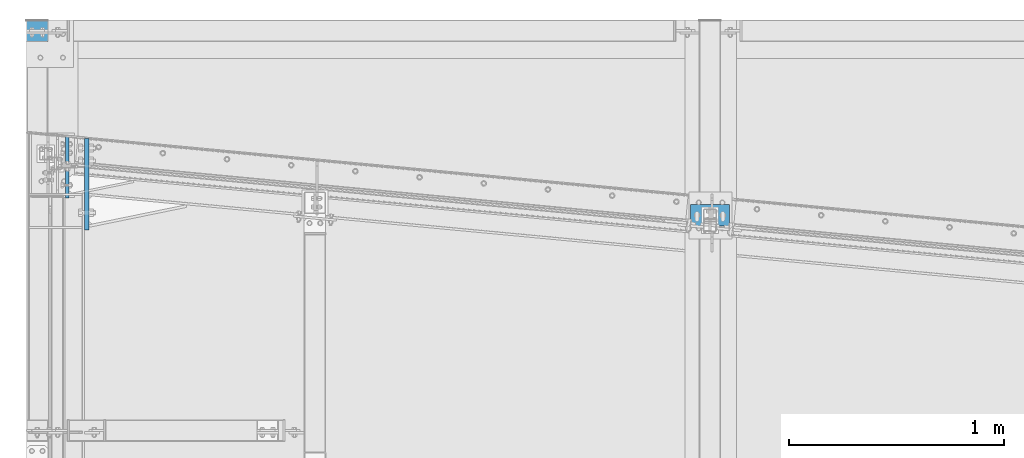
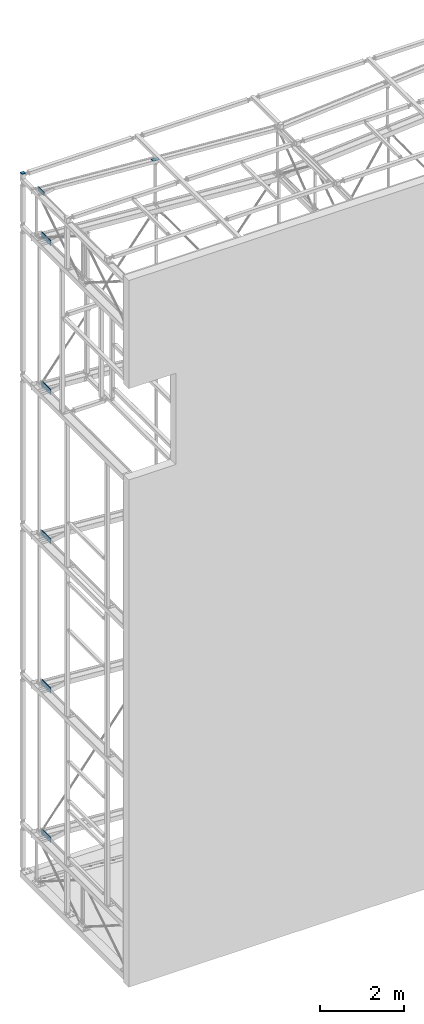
# One storey, part 4 of 271: 8 columns, 8 elements without a shape of their own.
"""IFC2X3 building model written with IfcOpenShell, lengths in millimetres."""

from ifc_helpers import new_model, si_unit, frame, origin_with_axes, origin_2d_with_axis, place, context, subcontext, project, spatial, rectangle, extrude, material, type_object, element, aggregate, save


model = new_model("IFC2X3")

# Units and contexts
model_context = context("Model", 3, precision=1e-05, world=origin_with_axes())
body_context = subcontext(model_context, "Body", "Model", "MODEL_VIEW")
ifc_project = project(units=[si_unit("LENGTHUNIT", "METRE", prefix="MILLI"), si_unit("AREAUNIT", "SQUARE_METRE"), si_unit("VOLUMEUNIT", "CUBIC_METRE"), si_unit("MASSUNIT", "GRAM", prefix="KILO"), si_unit("TIMEUNIT", "SECOND"), si_unit("PLANEANGLEUNIT", "RADIAN"), si_unit("SOLIDANGLEUNIT", "STERADIAN"), si_unit("THERMODYNAMICTEMPERATUREUNIT", "DEGREE_CELSIUS"), si_unit("LUMINOUSINTENSITYUNIT", "LUMEN")], contexts=[model_context])

# Site, building, storey
site_placement = place(None, origin_with_axes())
site = spatial("IfcSite", under=ifc_project, at=site_placement, Name="Undefined", CompositionType="ELEMENT")
building_placement = place(site_placement, origin_with_axes())
building = spatial("IfcBuilding", under=site, at=building_placement, Name="Undefined", CompositionType="ELEMENT")
storey_placement = place(building_placement, origin_with_axes())
storey = spatial("IfcBuildingStorey", under=building, at=storey_placement, Name="Undefined", CompositionType="ELEMENT", Elevation=0.0)

# Assembly, column
assembly_1_placement = place(storey_placement, origin_with_axes())
assembly_1 = element("IfcElementAssembly", 1, at=assembly_1_placement, inside=storey, AssemblyPlace="NOTDEFINED", PredefinedType="RIGID_FRAME")
ifc_material = material(Name="STEEL/S355JR")
column_type_1 = type_object("IfcColumnType", Name="BL4*100", PredefinedType="NOTDEFINED")
column_1_placement = place(assembly_1_placement, frame((38.3756870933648, 4859.32498425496, 20202.3499999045), z_axis=(0.0, 1.0, 0.0), x_axis=(1.0, 0.0, 0.0)))
column_1 = element("IfcColumn", 2, at=column_1_placement, type_object=column_type_1, material=ifc_material, Name="BLACHA", ObjectType="BL4*100", context=body_context, shape_type="SweptSolid", body=[
    extrude(rectangle(XDim=4.0, YDim=100.0, at=origin_2d_with_axis()), frame((0.0, 0.0, 100.0), z_axis=(0.0, 0.0, -1.0), x_axis=(0.0, 1.0, 0.0)), (0.0, 0.0, 1.0), 100.0),
])
aggregate(assembly_1, [column_1])

assembly_2_placement = place(storey_placement, origin_with_axes())
assembly_2 = element("IfcElementAssembly", 3, at=assembly_2_placement, inside=storey, AssemblyPlace="NOTDEFINED", PredefinedType="RIGID_FRAME")
column_type_2 = type_object("IfcColumnType", Name="BL10*180", PredefinedType="NOTDEFINED")
column_2_placement = place(assembly_2_placement, frame((3168.37568709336, 4000.32498425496, 20013.0), z_axis=(0.0, 1.0, 0.0), x_axis=(-1.0, 0.0, 1.38777878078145e-17)))
column_2 = element("IfcColumn", 4, at=column_2_placement, type_object=column_type_2, material=ifc_material, Name="BLACHA", ObjectType="BL10*180", context=body_context, shape_type="SweptSolid", body=[
    extrude(rectangle(XDim=10.0, YDim=180.0, at=origin_2d_with_axis()), frame((0.0, 0.0, 100.0), z_axis=(0.0, 0.0, -1.0), x_axis=(0.0, 1.0, 0.0)), (0.0, 0.0, 1.0), 100.0),
])
aggregate(assembly_2, [column_2])

assembly_3_placement = place(storey_placement, origin_with_axes())
assembly_3 = element("IfcElementAssembly", 5, at=assembly_3_placement, inside=storey, AssemblyPlace="NOTDEFINED", PredefinedType="RIGID_FRAME")
column_type_3 = type_object("IfcColumnType", Name="BL16*110", PredefinedType="NOTDEFINED")
column_3_placement = place(assembly_3_placement, frame((177.375687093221, 4130.93190513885, 20004.3499999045), z_axis=(0.0, 1.0, 0.0), x_axis=(0.0, 0.0, 1.0)))
column_3 = element("IfcColumn", 6, at=column_3_placement, type_object=column_type_3, material=ifc_material, Name="BLACHA", ObjectType="BL16*110", context=body_context, shape_type="SweptSolid", body=[
    extrude(rectangle(XDim=16.0, YDim=110.0, at=origin_2d_with_axis()), frame((0.0, 0.0, 286.007007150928), z_axis=(0.0, 0.0, -1.0), x_axis=(0.0, 1.0, 0.0)), (0.0, 0.0, 1.0), 286.01),
])
aggregate(assembly_3, [column_3])

assembly_4_placement = place(storey_placement, origin_with_axes())
assembly_4 = element("IfcElementAssembly", 7, at=assembly_4_placement, inside=storey, AssemblyPlace="NOTDEFINED", PredefinedType="RIGID_FRAME")
column_type_4 = type_object("IfcColumnType", Name="BL20*155", PredefinedType="NOTDEFINED")
column_4_placement = place(assembly_4_placement, frame((269.375687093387, 3981.62364236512, 5684.34999990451), z_axis=(0.0, 1.0, 0.0), x_axis=(0.0, 0.0, 1.0)))
column_4 = element("IfcColumn", 8, at=column_4_placement, type_object=column_type_4, material=ifc_material, Name="BLACHA", ObjectType="BL20*155", context=body_context, shape_type="SweptSolid", body=[
    extrude(rectangle(XDim=20.0, YDim=155.0, at=origin_2d_with_axis()), frame((0.0, 0.0, 426.447345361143), z_axis=(0.0, 0.0, -1.0), x_axis=(0.0, 1.0, 0.0)), (0.0, 0.0, 1.0), 426.45),
])
aggregate(assembly_4, [column_4])

assembly_5_placement = place(storey_placement, origin_with_axes())
assembly_5 = element("IfcElementAssembly", 9, at=assembly_5_placement, inside=storey, AssemblyPlace="NOTDEFINED", PredefinedType="RIGID_FRAME")
column_5_placement = place(assembly_5_placement, frame((269.375687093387, 3981.62364236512, 18644.3499999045), z_axis=(0.0, 1.0, 0.0), x_axis=(0.0, 0.0, 1.0)))
column_5 = element("IfcColumn", 10, at=column_5_placement, type_object=column_type_4, material=ifc_material, Name="BLACHA", ObjectType="BL20*155", context=body_context, shape_type="SweptSolid", body=[
    extrude(rectangle(XDim=20.0, YDim=155.0, at=origin_2d_with_axis()), frame((0.0, 0.0, 426.447345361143), z_axis=(0.0, 0.0, -1.0), x_axis=(0.0, 1.0, 0.0)), (0.0, 0.0, 1.0), 426.45),
])
aggregate(assembly_5, [column_5])

assembly_6_placement = place(storey_placement, origin_with_axes())
assembly_6 = element("IfcElementAssembly", 11, at=assembly_6_placement, inside=storey, AssemblyPlace="NOTDEFINED", PredefinedType="RIGID_FRAME")
column_6_placement = place(assembly_6_placement, frame((269.375687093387, 3981.62364236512, 14324.3499999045), z_axis=(0.0, 1.0, 0.0), x_axis=(0.0, 0.0, 1.0)))
column_6 = element("IfcColumn", 12, at=column_6_placement, type_object=column_type_4, material=ifc_material, Name="BLACHA", ObjectType="BL20*155", context=body_context, shape_type="SweptSolid", body=[
    extrude(rectangle(XDim=20.0, YDim=155.0, at=origin_2d_with_axis()), frame((0.0, 0.0, 426.447345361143), z_axis=(0.0, 0.0, -1.0), x_axis=(0.0, 1.0, 0.0)), (0.0, 0.0, 1.0), 426.45),
])
aggregate(assembly_6, [column_6])

assembly_7_placement = place(storey_placement, origin_with_axes())
assembly_7 = element("IfcElementAssembly", 13, at=assembly_7_placement, inside=storey, AssemblyPlace="NOTDEFINED", PredefinedType="RIGID_FRAME")
column_7_placement = place(assembly_7_placement, frame((269.375687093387, 3981.62364236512, 10004.3499999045), z_axis=(0.0, 1.0, 0.0), x_axis=(0.0, 0.0, 1.0)))
column_7 = element("IfcColumn", 14, at=column_7_placement, type_object=column_type_4, material=ifc_material, Name="BLACHA", ObjectType="BL20*155", context=body_context, shape_type="SweptSolid", body=[
    extrude(rectangle(XDim=20.0, YDim=155.0, at=origin_2d_with_axis()), frame((0.0, 0.0, 426.447345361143), z_axis=(0.0, 0.0, -1.0), x_axis=(0.0, 1.0, 0.0)), (0.0, 0.0, 1.0), 426.45),
])
aggregate(assembly_7, [column_7])

assembly_8_placement = place(storey_placement, origin_with_axes())
assembly_8 = element("IfcElementAssembly", 15, at=assembly_8_placement, inside=storey, AssemblyPlace="NOTDEFINED", PredefinedType="RIGID_FRAME")
column_8_placement = place(assembly_8_placement, frame((269.375687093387, 3981.62364236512, 1364.34999990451), z_axis=(0.0, 1.0, 0.0), x_axis=(0.0, 0.0, 1.0)))
column_8 = element("IfcColumn", 16, at=column_8_placement, type_object=column_type_4, material=ifc_material, Name="BLACHA", ObjectType="BL20*155", context=body_context, shape_type="SweptSolid", body=[
    extrude(rectangle(XDim=20.0, YDim=155.0, at=origin_2d_with_axis()), frame((0.0, 0.0, 426.447345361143), z_axis=(0.0, 0.0, -1.0), x_axis=(0.0, 1.0, 0.0)), (0.0, 0.0, 1.0), 426.45),
])
aggregate(assembly_8, [column_8])

save(model, "model.ifc")
